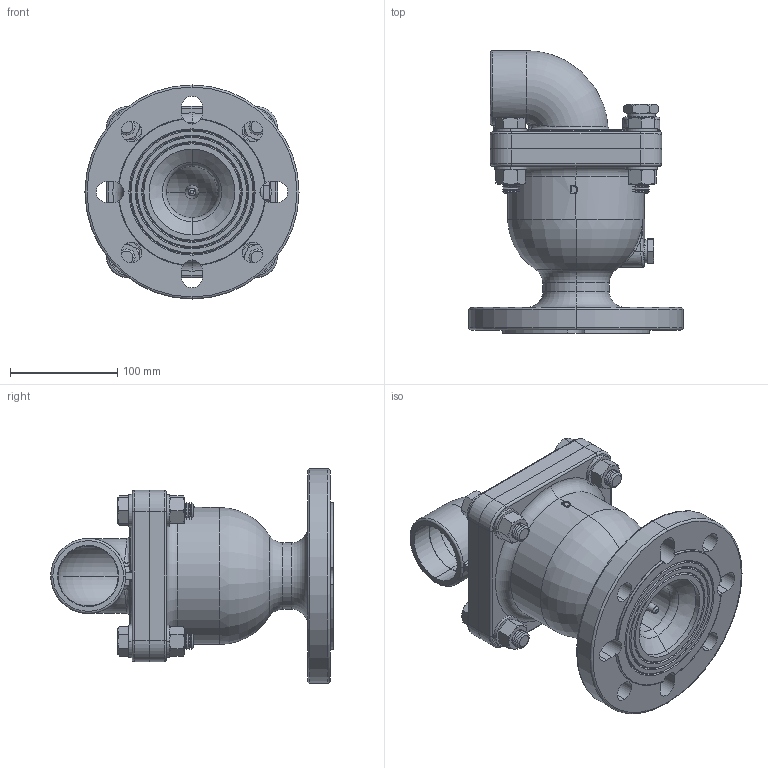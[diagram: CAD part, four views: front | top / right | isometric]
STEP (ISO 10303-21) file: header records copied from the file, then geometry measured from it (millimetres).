
FILE_DESCRIPTION (( 'STEP AP203' ), '1' );
FILE_NAME ('K-010-3 M1.STEP', '2015-11-10T14:14:01', ( '' ), ( '' ), 'SwSTEP 2.0', 'SolidWorks 2014', '' );
FILE_SCHEMA (( 'CONFIG_CONTROL_DESIGN' ));
Length unit declared in the file: millimetre
Products named in the file (1): K-010-3 M1
Bounding box: 200 x 264 x 200 mm (x, y, z)
Surface area: 268629.3 mm2 (no closed solid volume)
Topology: 0 solids, 32 shells, 453 faces, 1186 edges, 756 vertices
Faces by surface type: cone 135, plane 134, cylinder 96, torus 46, bspline 42
Entity records: 18919 total; most frequent: CARTESIAN_POINT 8013, DIRECTION 2302, ORIENTED_EDGE 2134, EDGE_CURVE 1184, AXIS2_PLACEMENT_3D 967, VERTEX_POINT 756, CIRCLE 555, EDGE_LOOP 511
